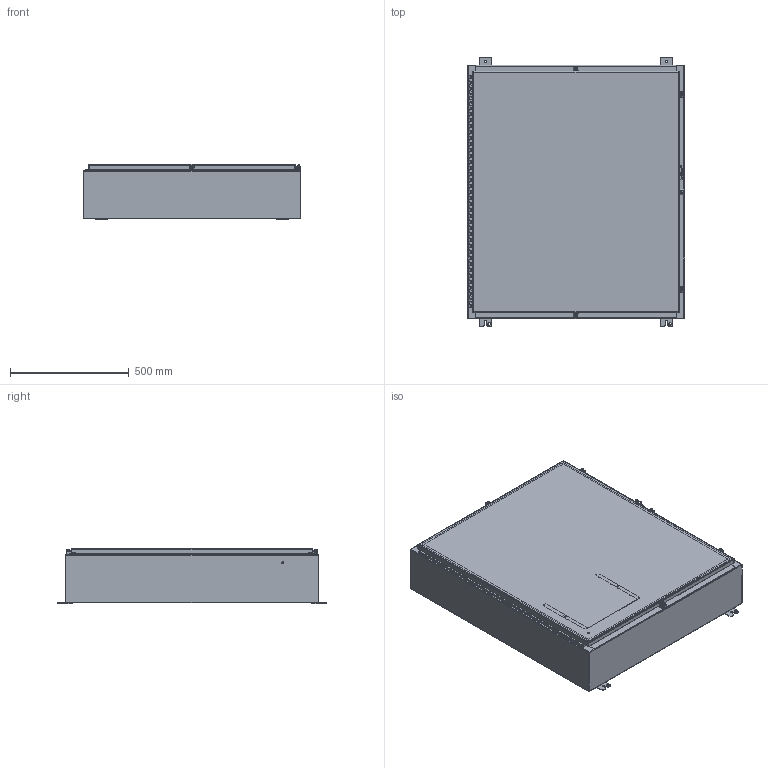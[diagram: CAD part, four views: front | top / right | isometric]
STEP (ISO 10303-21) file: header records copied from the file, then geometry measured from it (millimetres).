
FILE_DESCRIPTION((''),'2;1');
FILE_NAME('MODEL-303_ASM','2023-06-08T12:33:54',('mikek'),('SAGINAW CONTROL & ENGINEERING'),'CREO PARAMETRIC BY PTC INC, 2021284','CREO PARAMETRIC BY PTC INC, 2021284','');
FILE_SCHEMA(('AUTOMOTIVE_DESIGN { 1 0 10303 214 1 1 1 1 }'));
Length unit declared in the file: inch
Products named in the file (29): MODEL-303-BDY; MODEL-303-TP; MODEL-303-BTM; MODEL-303-DR; 100837; 100882; 111267; 118922_DR; 118922_PIN; 118922_BX; 118922_STUD; 118922_ASM; 100897; MODEL-303-DOOR-GASKET; 128600; 102483; MODEL-303-DOOR-ASSY_ASM; 102211; 101653; 121454; 120131_BASE; 120131_CLAMP; 120131_SCREW; 120131_CLOSED_ASM; 120134; SUBPANEL; 100904; SUBPANEL-SUBASSEMBLY_ASM; MODEL-303_ASM
Assembly tree (68 placements, depth 4):
  MODEL-303_ASM
    MODEL-303-BDY
    MODEL-303-TP
    MODEL-303-BTM
    MODEL-303-DOOR-ASSY_ASM
      MODEL-303-DR
      100837  x3
      100882  x2
      111267
      118922_ASM
        118922_DR
        118922_PIN
        118922_BX
        118922_STUD  x6
      100897  x6
      MODEL-303-DOOR-GASKET
      128600
      102483
    102211  x4
    100837
    101653  x8
    121454
    120131_CLOSED_ASM  x5
      120131_BASE
      120131_CLAMP
      120131_SCREW
    100882  x5
    120134
    SUBPANEL-SUBASSEMBLY_ASM
      SUBPANEL
      100904  x8
Bounding box: 914.4 x 1130.3 x 233.88 mm (x, y, z)
Volume: 9126411 mm3; surface area: 8213637 mm2
Topology: 71 solids, 71 shells, 5406 faces, 14057 edges, 8860 vertices
Faces by surface type: plane 2178, bspline 1391, cylinder 1198, torus 332, sphere 171, cone 136
Entity records: 106822 total; most frequent: CARTESIAN_POINT 32659, ORIENTED_EDGE 11158, DIRECTION 10185, PRESENTATION_STYLE_ASSIGNMENT 5707, STYLED_ITEM 5707, CURVE_STYLE 5579, EDGE_CURVE 5579, VERTEX_POINT 3520
